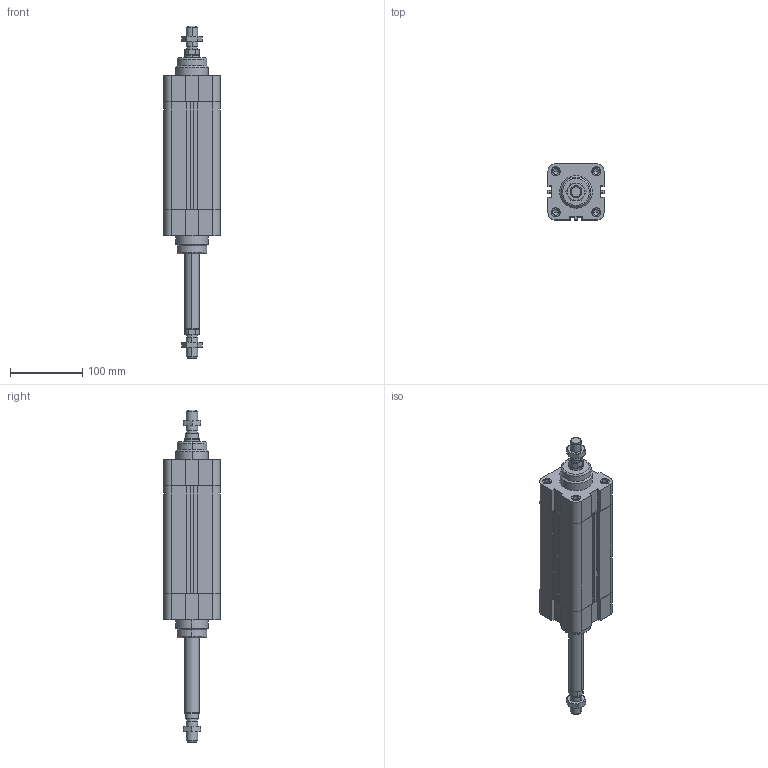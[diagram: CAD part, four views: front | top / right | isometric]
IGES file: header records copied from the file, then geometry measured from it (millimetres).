
Global section: file name: No Iges File Name specified; native system: Autodesk Inventor 2010; preprocessor: AutoDesk Inventor Iges Exporter R2010; author: rivolro1; date: 20090707.105753; units: millimetre
Bounding box: 77.5 x 77.5 x 459 mm (x, y, z)
Volume: 1100169.3 mm3; surface area: 200844 mm2
Topology: 6 solids, 6 shells, 343 faces, 810 edges, 508 vertices
Faces by surface type: plane 137, bspline 86, cylinder 58, cone 38, revolution 20, torus 4
